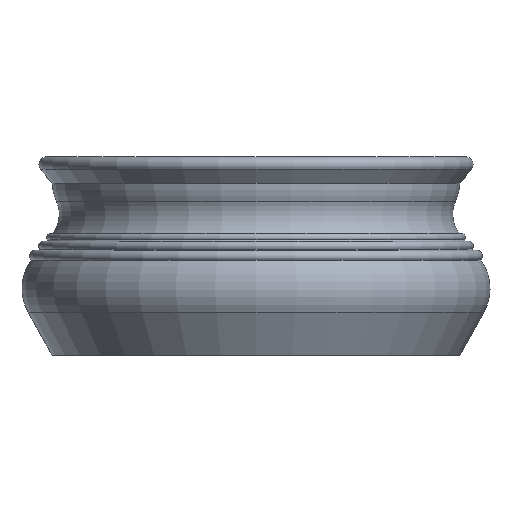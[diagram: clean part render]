
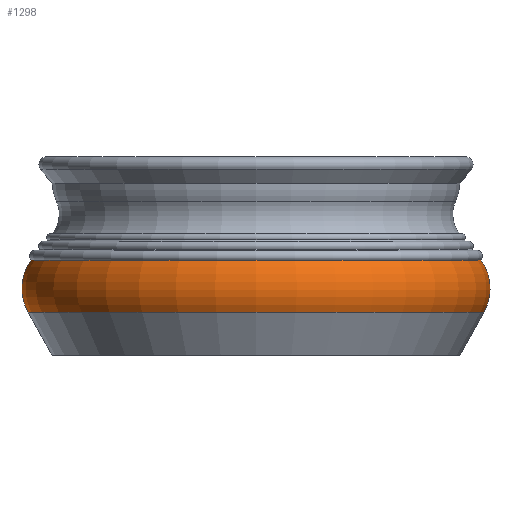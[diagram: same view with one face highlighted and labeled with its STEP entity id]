
A CAD part, front view. The second image highlights one B-rep face of the part: STEP entity #1298.
In plain terms, the highlighted toroidal (fillet/blend) face has major radius 116.81 mm and minor radius 30.55 mm.
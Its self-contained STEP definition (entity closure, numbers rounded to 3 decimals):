
#22=TOROIDAL_SURFACE('',#1475,116.81,30.55);
#164=FACE_OUTER_BOUND('',#280,.T.);
#280=EDGE_LOOP('',(#1187,#1188,#1189,#1190));
#517=CIRCLE('',#1439,143.488);
#539=CIRCLE('',#1476,141.512);
#540=CIRCLE('',#1477,30.55);
#642=VERTEX_POINT('',#2198);
#657=VERTEX_POINT('',#2257);
#805=EDGE_CURVE('',#642,#642,#517,.T.);
#834=EDGE_CURVE('',#657,#657,#539,.T.);
#835=EDGE_CURVE('',#657,#642,#540,.T.);
#1187=ORIENTED_EDGE('',*,*,#834,.F.);
#1188=ORIENTED_EDGE('',*,*,#835,.T.);
#1189=ORIENTED_EDGE('',*,*,#805,.T.);
#1190=ORIENTED_EDGE('',*,*,#835,.F.);
#1298=ADVANCED_FACE('',(#164),#22,.T.);
#1439=AXIS2_PLACEMENT_3D('',#2199,#1805,#1806);
#1475=AXIS2_PLACEMENT_3D('',#2256,#1884,#1885);
#1476=AXIS2_PLACEMENT_3D('',#2258,#1886,#1887);
#1477=AXIS2_PLACEMENT_3D('',#2259,#1888,#1889);
#1805=DIRECTION('center_axis',(0.,0.,1.));
#1806=DIRECTION('ref_axis',(1.,0.,0.));
#1884=DIRECTION('center_axis',(0.,0.,1.));
#1885=DIRECTION('ref_axis',(1.,0.,0.));
#1886=DIRECTION('center_axis',(0.,0.,1.));
#1887=DIRECTION('ref_axis',(1.,0.,0.));
#1888=DIRECTION('center_axis',(0.,-1.,0.));
#1889=DIRECTION('ref_axis',(-1.,0.,0.));
#2198=CARTESIAN_POINT('',(-143.488,0.,27.115));
#2199=CARTESIAN_POINT('Origin',(0.,0.,27.115));
#2256=CARTESIAN_POINT('Origin',(0.,0.,42.));
#2257=CARTESIAN_POINT('',(-141.512,0.,59.976));
#2258=CARTESIAN_POINT('Origin',(0.,0.,59.976));
#2259=CARTESIAN_POINT('Origin',(-116.81,0.,
42.));
